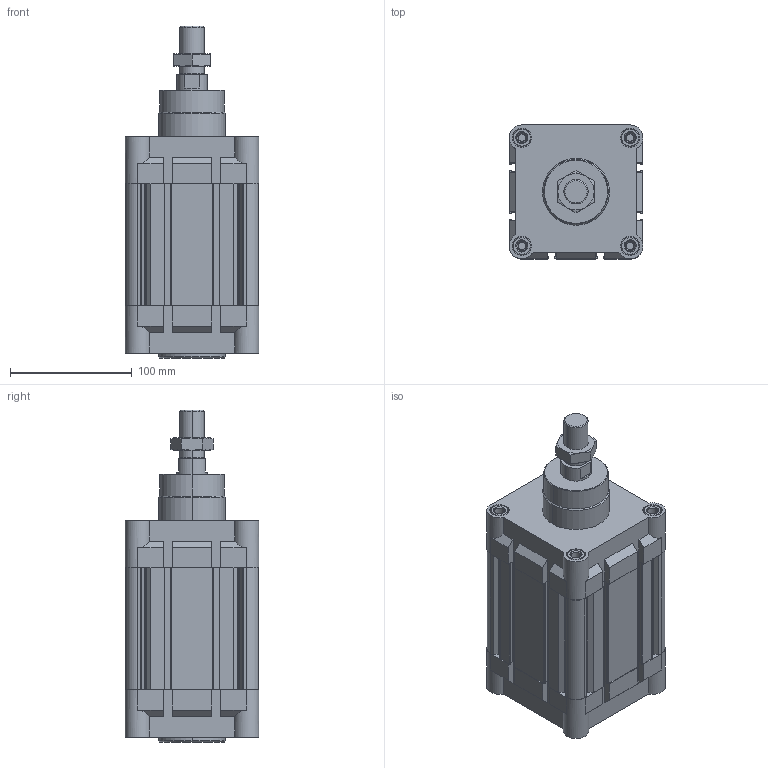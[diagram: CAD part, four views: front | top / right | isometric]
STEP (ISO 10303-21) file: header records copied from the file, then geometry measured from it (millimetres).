
FILE_DESCRIPTION (( 'STEP AP203' ), '1' );
FILE_NAME ('CPME100-40.STEP', '2022-09-16T11:27:50', ( '' ), ( '' ), 'SwSTEP 2.0', 'SolidWorks 2019', '' );
FILE_SCHEMA (( 'CONFIG_CONTROL_DESIGN' ));
Length unit declared in the file: millimetre
Products named in the file (1): CPME100-40
Bounding box: 110 x 110 x 273 mm (x, y, z)
Volume: 1826001.9 mm3; surface area: 222599.1 mm2
Topology: 3 solids, 3 shells, 548 faces, 1410 edges, 904 vertices
Faces by surface type: plane 292, cylinder 174, cone 82
Entity records: 18083 total; most frequent: CARTESIAN_POINT 4503, DIRECTION 2832, ORIENTED_EDGE 2820, EDGE_CURVE 1410, AXIS2_PLACEMENT_3D 969, VERTEX_POINT 904, VECTOR 894, LINE 894
